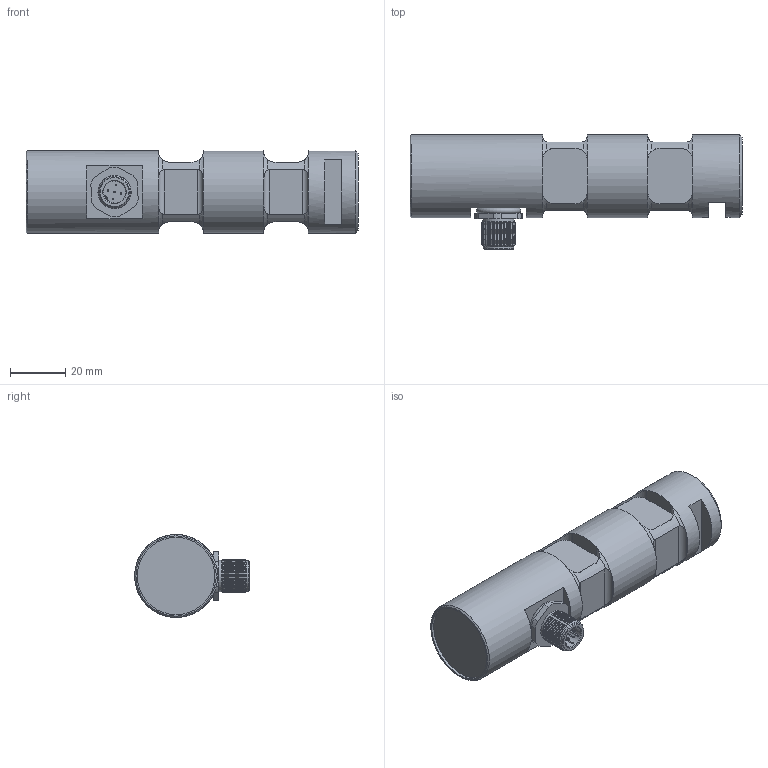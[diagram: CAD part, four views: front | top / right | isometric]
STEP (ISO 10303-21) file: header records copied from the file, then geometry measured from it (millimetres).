
FILE_DESCRIPTION(/* description */ ('Alibre Inc.'),/* implementation_level */ '2;1');
FILE_NAME(/* name */ 'export-F2F3D6B3-FB46-47B5-978D-32270B675559',/* time_stamp */ '2020-11-19T15:04:22+01:00',/* author */ (''),/* organization */ (''),/* preprocessor_version */ 'ST-DEVELOPER v17',/* originating_system */ 'Alibre',/* authorisation */ '');
FILE_SCHEMA (('CONFIG_CONTROL_DESIGN'));
Length unit declared in the file: millimetre
Bounding box: 120 x 41.5 x 30 mm (x, y, z)
Surface area: 167658 mm2
Topology: 7 solids, 8 shells, 256 faces, 567 edges, 335 vertices
Faces by surface type: cylinder 88, plane 79, cone 71, torus 18
Full cylindrical faces by diameter (mm): 0.5 x10, 8 x2, 10 x1, 11 x1, 11.5 x1, 12 x21, 13 x2, 14.5 x1, 28 x1, 30 x3
Entity records: 6392 total; most frequent: CARTESIAN_POINT 1653, ORIENTED_EDGE 926, DIRECTION 738, EDGE_CURVE 457, EDGE_LOOP 371, FACE_BOUND 371, AXIS2_PLACEMENT_3D 341, VERTEX_POINT 320
